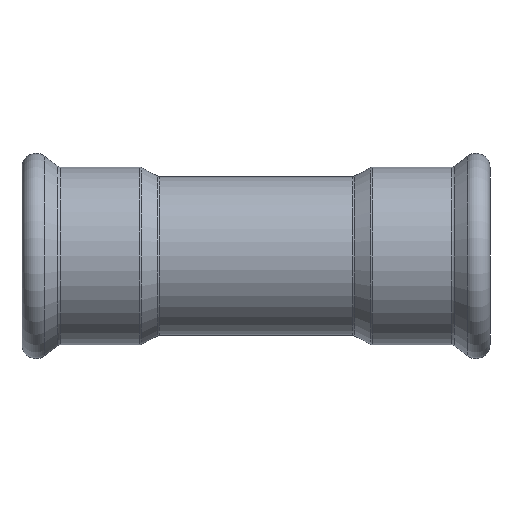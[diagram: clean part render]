
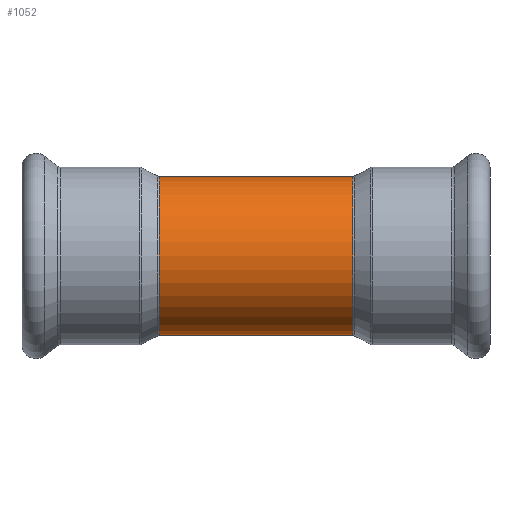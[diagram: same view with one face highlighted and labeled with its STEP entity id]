
A CAD part, front view. The second image highlights one B-rep face of the part: STEP entity #1052.
In plain terms, the highlighted cylindrical face has radius 17.15 mm (diameter 34.3 mm), a partial arc.
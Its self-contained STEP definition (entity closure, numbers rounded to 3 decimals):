
#15 = VERTEX_POINT ( 'NONE', #3667 ) ;
#24 = DIRECTION ( 'NONE',  ( -1., 0., 0. ) ) ;
#182 = EDGE_CURVE ( 'NONE', #3427, #803, #1412, .T. ) ;
#265 = DIRECTION ( 'NONE',  ( -1., 0., 0. ) ) ;
#349 = ORIENTED_EDGE ( 'NONE', *, *, #1828, .T. ) ;
#369 = EDGE_LOOP ( 'NONE', ( #517, #349, #887, #1463 ) ) ;
#381 = CARTESIAN_POINT ( 'NONE',  ( 20.877, 0., -17.15 ) ) ;
#443 = DIRECTION ( 'NONE',  ( 0., 0., 1. ) ) ;
#471 = EDGE_CURVE ( 'NONE', #15, #3427, #569, .T. ) ;
#504 = EDGE_CURVE ( 'NONE', #2658, #803, #2333, .T. ) ;
#517 = ORIENTED_EDGE ( 'NONE', *, *, #504, .F. ) ;
#569 = LINE ( 'NONE', #1876, #1361 ) ;
#610 = DIRECTION ( 'NONE',  ( 1., 0., 0. ) ) ;
#643 = CARTESIAN_POINT ( 'NONE',  ( 0., 0., 0. ) ) ;
#803 = VERTEX_POINT ( 'NONE', #3347 ) ;
#887 = ORIENTED_EDGE ( 'NONE', *, *, #471, .T. ) ;
#1052 = ADVANCED_FACE ( 'NONE', ( #2926 ), #2287, .T. ) ;
#1361 = VECTOR ( 'NONE', #265, 1000. ) ;
#1412 = CIRCLE ( 'NONE', #2446, 17.15 ) ;
#1463 = ORIENTED_EDGE ( 'NONE', *, *, #182, .T. ) ;
#1583 = CARTESIAN_POINT ( 'NONE',  ( -20.877, 0., 0. ) ) ;
#1702 = VECTOR ( 'NONE', #2380, 1000. ) ;
#1703 = CARTESIAN_POINT ( 'NONE',  ( 0., 0., -17.15 ) ) ;
#1828 = EDGE_CURVE ( 'NONE', #2658, #15, #4167, .T. ) ;
#1876 = CARTESIAN_POINT ( 'NONE',  ( 0., 0., 17.15 ) ) ;
#2253 = DIRECTION ( 'NONE',  ( 0., 0., 1. ) ) ;
#2287 = CYLINDRICAL_SURFACE ( 'NONE', #3951, 17.15 ) ;
#2333 = LINE ( 'NONE', #1703, #1702 ) ;
#2380 = DIRECTION ( 'NONE',  ( -1., 0., 0. ) ) ;
#2446 = AXIS2_PLACEMENT_3D ( 'NONE', #1583, #610, #3225 ) ;
#2658 = VERTEX_POINT ( 'NONE', #381 ) ;
#2796 = CARTESIAN_POINT ( 'NONE',  ( 20.877, 0., 0. ) ) ;
#2926 = FACE_OUTER_BOUND ( 'NONE', #369, .T. ) ;
#3147 = DIRECTION ( 'NONE',  ( -1., 0., 0. ) ) ;
#3225 = DIRECTION ( 'NONE',  ( 0., 0., 1. ) ) ;
#3347 = CARTESIAN_POINT ( 'NONE',  ( -20.877, 0., -17.15 ) ) ;
#3427 = VERTEX_POINT ( 'NONE', #3498 ) ;
#3498 = CARTESIAN_POINT ( 'NONE',  ( -20.877, 0., 17.15 ) ) ;
#3667 = CARTESIAN_POINT ( 'NONE',  ( 20.877, 0., 17.15 ) ) ;
#3732 = AXIS2_PLACEMENT_3D ( 'NONE', #2796, #3147, #443 ) ;
#3951 = AXIS2_PLACEMENT_3D ( 'NONE', #643, #24, #2253 ) ;
#4167 = CIRCLE ( 'NONE', #3732, 17.15 ) ;
